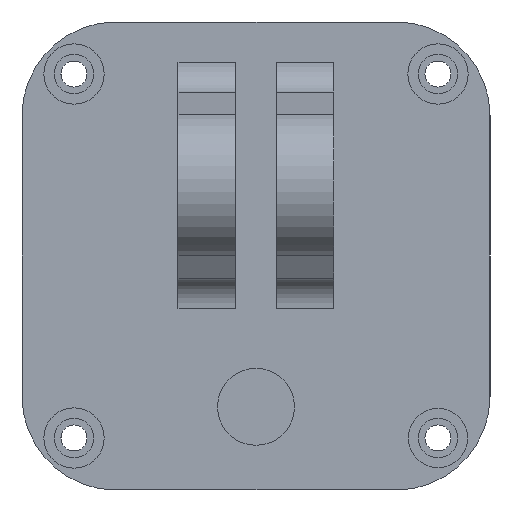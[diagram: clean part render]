
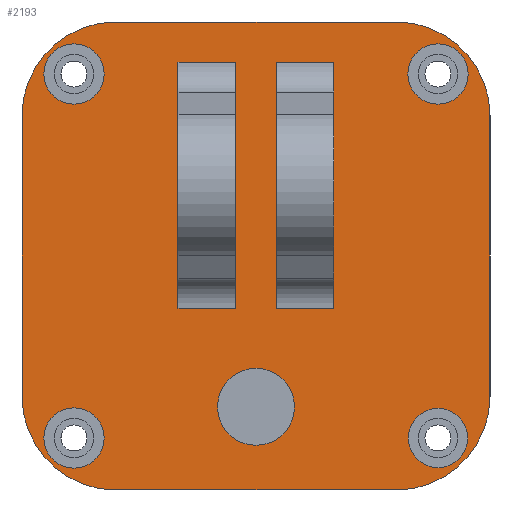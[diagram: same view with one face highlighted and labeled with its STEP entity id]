
A CAD part, left-side view. The second image highlights one B-rep face of the part: STEP entity #2193.
In plain terms, the highlighted planar face has unit normal (-1, 0, 0) as drawn and (1, 0, 0) by its records, which use the part's own axes.
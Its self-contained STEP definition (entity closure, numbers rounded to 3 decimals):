
#1404=CARTESIAN_POINT('',(6.,0.,-14.5));
#1405=DIRECTION('',(-1.,0.,0.));
#1406=DIRECTION('',(0.,-1.,0.));
#1407=AXIS2_PLACEMENT_3D('',#1404,#1405,#1406);
#1409=CARTESIAN_POINT('',(6.,0.,-14.5));
#1410=DIRECTION('',(-1.,0.,0.));
#1411=DIRECTION('',(0.,1.,0.));
#1412=AXIS2_PLACEMENT_3D('',#1409,#1410,#1411);
#1414=CARTESIAN_POINT('',(6.,13.5,-13.5));
#1415=DIRECTION('',(1.,0.,0.));
#1416=DIRECTION('',(0.,0.,-1.));
#1417=AXIS2_PLACEMENT_3D('',#1414,#1415,#1416);
#1419=DIRECTION('',(0.,1.,0.));
#1420=VECTOR('',#1419,27.);
#1421=CARTESIAN_POINT('',(6.,-13.5,-22.5));
#1422=LINE('',#1421,#1420);
#1423=CARTESIAN_POINT('',(6.,-13.5,-13.5));
#1424=DIRECTION('',(1.,0.,0.));
#1425=DIRECTION('',(0.,-1.,0.));
#1426=AXIS2_PLACEMENT_3D('',#1423,#1424,#1425);
#1428=DIRECTION('',(0.,0.,-1.));
#1429=VECTOR('',#1428,27.);
#1430=CARTESIAN_POINT('',(6.,-22.5,13.5));
#1431=LINE('',#1430,#1429);
#1432=CARTESIAN_POINT('',(6.,-13.5,13.5));
#1433=DIRECTION('',(1.,0.,0.));
#1434=DIRECTION('',(0.,0.,1.));
#1435=AXIS2_PLACEMENT_3D('',#1432,#1433,#1434);
#1437=DIRECTION('',(0.,-1.,0.));
#1438=VECTOR('',#1437,27.);
#1439=CARTESIAN_POINT('',(6.,13.5,22.5));
#1440=LINE('',#1439,#1438);
#1441=CARTESIAN_POINT('',(6.,13.5,13.5));
#1442=DIRECTION('',(1.,0.,0.));
#1443=DIRECTION('',(0.,1.,0.));
#1444=AXIS2_PLACEMENT_3D('',#1441,#1442,#1443);
#1446=DIRECTION('',(0.,0.,1.));
#1447=VECTOR('',#1446,27.);
#1448=CARTESIAN_POINT('',(6.,22.5,-13.5));
#1449=LINE('',#1448,#1447);
#1450=CARTESIAN_POINT('',(6.,17.5,-17.5));
#1451=DIRECTION('',(1.,0.,0.));
#1452=DIRECTION('',(0.,-1.,0.));
#1453=AXIS2_PLACEMENT_3D('',#1450,#1451,#1452);
#1455=CARTESIAN_POINT('',(6.,17.5,-17.5));
#1456=DIRECTION('',(1.,0.,0.));
#1457=DIRECTION('',(0.,1.,0.));
#1458=AXIS2_PLACEMENT_3D('',#1455,#1456,#1457);
#1460=CARTESIAN_POINT('',(6.,-17.5,-17.5));
#1461=DIRECTION('',(1.,0.,0.));
#1462=DIRECTION('',(0.,-1.,0.));
#1463=AXIS2_PLACEMENT_3D('',#1460,#1461,#1462);
#1465=CARTESIAN_POINT('',(6.,-17.5,-17.5));
#1466=DIRECTION('',(1.,0.,0.));
#1467=DIRECTION('',(0.,1.,0.));
#1468=AXIS2_PLACEMENT_3D('',#1465,#1466,#1467);
#1470=CARTESIAN_POINT('',(6.,-17.5,17.5));
#1471=DIRECTION('',(1.,0.,0.));
#1472=DIRECTION('',(0.,-1.,0.));
#1473=AXIS2_PLACEMENT_3D('',#1470,#1471,#1472);
#1475=CARTESIAN_POINT('',(6.,-17.5,17.5));
#1476=DIRECTION('',(1.,0.,0.));
#1477=DIRECTION('',(0.,1.,0.));
#1478=AXIS2_PLACEMENT_3D('',#1475,#1476,#1477);
#1480=CARTESIAN_POINT('',(6.,17.5,17.5));
#1481=DIRECTION('',(1.,0.,0.));
#1482=DIRECTION('',(0.,-1.,0.));
#1483=AXIS2_PLACEMENT_3D('',#1480,#1481,#1482);
#1485=CARTESIAN_POINT('',(6.,17.5,17.5));
#1486=DIRECTION('',(1.,0.,0.));
#1487=DIRECTION('',(0.,1.,0.));
#1488=AXIS2_PLACEMENT_3D('',#1485,#1486,#1487);
#1558=DIRECTION('',(0.,1.,0.));
#1559=VECTOR('',#1558,5.5);
#1560=CARTESIAN_POINT('',(6.,-7.5,-5.026));
#1561=LINE('',#1560,#1559);
#1586=DIRECTION('',(0.,0.,1.));
#1587=VECTOR('',#1586,23.653);
#1588=CARTESIAN_POINT('',(6.,-7.5,-5.026));
#1589=LINE('',#1588,#1587);
#1621=DIRECTION('',(0.,0.,-1.));
#1622=VECTOR('',#1621,23.653);
#1623=CARTESIAN_POINT('',(6.,-2.,18.626));
#1624=LINE('',#1623,#1622);
#1638=DIRECTION('',(0.,-1.,0.));
#1639=VECTOR('',#1638,5.5);
#1640=CARTESIAN_POINT('',(6.,-2.,18.626));
#1641=LINE('',#1640,#1639);
#1664=DIRECTION('',(0.,1.,0.));
#1665=VECTOR('',#1664,5.5);
#1666=CARTESIAN_POINT('',(6.,2.,-5.026));
#1667=LINE('',#1666,#1665);
#1692=DIRECTION('',(0.,0.,1.));
#1693=VECTOR('',#1692,23.653);
#1694=CARTESIAN_POINT('',(6.,2.,-5.026));
#1695=LINE('',#1694,#1693);
#1731=DIRECTION('',(0.,0.,-1.));
#1732=VECTOR('',#1731,23.653);
#1733=CARTESIAN_POINT('',(6.,7.5,18.626));
#1734=LINE('',#1733,#1732);
#1744=DIRECTION('',(0.,-1.,0.));
#1745=VECTOR('',#1744,5.5);
#1746=CARTESIAN_POINT('',(6.,7.5,18.626));
#1747=LINE('',#1746,#1745);
#1822=CARTESIAN_POINT('',(6.,13.5,-22.5));
#1823=CARTESIAN_POINT('',(6.,22.5,-13.5));
#1824=VERTEX_POINT('',#1822);
#1825=VERTEX_POINT('',#1823);
#1826=CARTESIAN_POINT('',(6.,22.5,13.5));
#1827=VERTEX_POINT('',#1826);
#1828=CARTESIAN_POINT('',(6.,13.5,22.5));
#1829=VERTEX_POINT('',#1828);
#1830=CARTESIAN_POINT('',(6.,-13.5,22.5));
#1831=VERTEX_POINT('',#1830);
#1832=CARTESIAN_POINT('',(6.,-22.5,13.5));
#1833=VERTEX_POINT('',#1832);
#1834=CARTESIAN_POINT('',(6.,-22.5,-13.5));
#1835=VERTEX_POINT('',#1834);
#1836=CARTESIAN_POINT('',(6.,-13.5,-22.5));
#1837=VERTEX_POINT('',#1836);
#1850=CARTESIAN_POINT('',(6.,-3.7,-14.5));
#1851=CARTESIAN_POINT('',(6.,3.7,-14.5));
#1852=VERTEX_POINT('',#1850);
#1853=VERTEX_POINT('',#1851);
#1870=CARTESIAN_POINT('',(6.,14.65,-17.5));
#1871=CARTESIAN_POINT('',(6.,20.35,-17.5));
#1872=VERTEX_POINT('',#1870);
#1873=VERTEX_POINT('',#1871);
#1874=CARTESIAN_POINT('',(6.,-20.4,-17.5));
#1875=CARTESIAN_POINT('',(6.,-14.6,-17.5));
#1876=VERTEX_POINT('',#1874);
#1877=VERTEX_POINT('',#1875);
#1878=CARTESIAN_POINT('',(6.,-20.4,17.5));
#1879=CARTESIAN_POINT('',(6.,-14.6,17.5));
#1880=VERTEX_POINT('',#1878);
#1881=VERTEX_POINT('',#1879);
#1882=CARTESIAN_POINT('',(6.,14.6,17.5));
#1883=CARTESIAN_POINT('',(6.,20.4,17.5));
#1884=VERTEX_POINT('',#1882);
#1885=VERTEX_POINT('',#1883);
#1934=CARTESIAN_POINT('',(6.,-7.5,-5.026));
#1935=CARTESIAN_POINT('',(6.,-2.,-5.026));
#1936=VERTEX_POINT('',#1934);
#1937=VERTEX_POINT('',#1935);
#1942=CARTESIAN_POINT('',(6.,2.,-5.026));
#1943=CARTESIAN_POINT('',(6.,7.5,-5.026));
#1944=VERTEX_POINT('',#1942);
#1945=VERTEX_POINT('',#1943);
#1950=CARTESIAN_POINT('',(6.,-2.,18.626));
#1951=CARTESIAN_POINT('',(6.,-7.5,18.626));
#1952=VERTEX_POINT('',#1950);
#1953=VERTEX_POINT('',#1951);
#1958=CARTESIAN_POINT('',(6.,7.5,18.626));
#1959=CARTESIAN_POINT('',(6.,2.,18.626));
#1960=VERTEX_POINT('',#1958);
#1961=VERTEX_POINT('',#1959);
#2121=CARTESIAN_POINT('',(6.,0.,0.));
#2122=DIRECTION('',(1.,0.,0.));
#2123=DIRECTION('',(0.,-1.,0.));
#2124=AXIS2_PLACEMENT_3D('',#2121,#2122,#2123);
#2125=PLANE('',#2124);
#2127=ORIENTED_EDGE('',*,*,#2126,.F.);
#2129=ORIENTED_EDGE('',*,*,#2128,.F.);
#2131=ORIENTED_EDGE('',*,*,#2130,.F.);
#2133=ORIENTED_EDGE('',*,*,#2132,.F.);
#2135=ORIENTED_EDGE('',*,*,#2134,.F.);
#2137=ORIENTED_EDGE('',*,*,#2136,.F.);
#2139=ORIENTED_EDGE('',*,*,#2138,.F.);
#2141=ORIENTED_EDGE('',*,*,#2140,.F.);
#2142=EDGE_LOOP('',(#2127,#2129,#2131,#2133,#2135,#2137,#2139,#2141));
#2143=FACE_OUTER_BOUND('',#2142,.F.);
#2145=ORIENTED_EDGE('',*,*,#2144,.F.);
#2147=ORIENTED_EDGE('',*,*,#2146,.F.);
#2148=EDGE_LOOP('',(#2145,#2147));
#2149=FACE_BOUND('',#2148,.F.);
#2150=ORIENTED_EDGE('',*,*,#2111,.T.);
#2152=ORIENTED_EDGE('',*,*,#2151,.T.);
#2153=EDGE_LOOP('',(#2150,#2152));
#2154=FACE_BOUND('',#2153,.F.);
#2156=ORIENTED_EDGE('',*,*,#2155,.T.);
#2158=ORIENTED_EDGE('',*,*,#2157,.T.);
#2159=EDGE_LOOP('',(#2156,#2158));
#2160=FACE_BOUND('',#2159,.F.);
#2162=ORIENTED_EDGE('',*,*,#2161,.T.);
#2164=ORIENTED_EDGE('',*,*,#2163,.T.);
#2165=EDGE_LOOP('',(#2162,#2164));
#2166=FACE_BOUND('',#2165,.F.);
#2168=ORIENTED_EDGE('',*,*,#2167,.T.);
#2170=ORIENTED_EDGE('',*,*,#2169,.T.);
#2171=EDGE_LOOP('',(#2168,#2170));
#2172=FACE_BOUND('',#2171,.F.);
#2174=ORIENTED_EDGE('',*,*,#2173,.T.);
#2176=ORIENTED_EDGE('',*,*,#2175,.F.);
#2178=ORIENTED_EDGE('',*,*,#2177,.T.);
#2180=ORIENTED_EDGE('',*,*,#2179,.F.);
#2181=EDGE_LOOP('',(#2174,#2176,#2178,#2180));
#2182=FACE_BOUND('',#2181,.F.);
#2184=ORIENTED_EDGE('',*,*,#2183,.T.);
#2186=ORIENTED_EDGE('',*,*,#2185,.F.);
#2188=ORIENTED_EDGE('',*,*,#2187,.T.);
#2190=ORIENTED_EDGE('',*,*,#2189,.F.);
#2191=EDGE_LOOP('',(#2184,#2186,#2188,#2190));
#2192=FACE_BOUND('',#2191,.F.);
#2193=ADVANCED_FACE('',(#2143,#2149,#2154,#2160,#2166,#2172,#2182,#2192),#2125,
.T.);
#1408=CIRCLE('',#1407,3.7);
#1413=CIRCLE('',#1412,3.7);
#1418=CIRCLE('',#1417,9.);
#1427=CIRCLE('',#1426,9.);
#1436=CIRCLE('',#1435,9.);
#1445=CIRCLE('',#1444,9.);
#1454=CIRCLE('',#1453,2.85);
#1459=CIRCLE('',#1458,2.85);
#1464=CIRCLE('',#1463,2.9);
#1469=CIRCLE('',#1468,2.9);
#1474=CIRCLE('',#1473,2.9);
#1479=CIRCLE('',#1478,2.9);
#1484=CIRCLE('',#1483,2.9);
#1489=CIRCLE('',#1488,2.9);
#2111=EDGE_CURVE('',#1872,#1873,#1454,.T.);
#2126=EDGE_CURVE('',#1824,#1825,#1418,.T.);
#2128=EDGE_CURVE('',#1837,#1824,#1422,.T.);
#2130=EDGE_CURVE('',#1835,#1837,#1427,.T.);
#2132=EDGE_CURVE('',#1833,#1835,#1431,.T.);
#2134=EDGE_CURVE('',#1831,#1833,#1436,.T.);
#2136=EDGE_CURVE('',#1829,#1831,#1440,.T.);
#2138=EDGE_CURVE('',#1827,#1829,#1445,.T.);
#2140=EDGE_CURVE('',#1825,#1827,#1449,.T.);
#2144=EDGE_CURVE('',#1852,#1853,#1408,.T.);
#2146=EDGE_CURVE('',#1853,#1852,#1413,.T.);
#2151=EDGE_CURVE('',#1873,#1872,#1459,.T.);
#2155=EDGE_CURVE('',#1876,#1877,#1464,.T.);
#2157=EDGE_CURVE('',#1877,#1876,#1469,.T.);
#2161=EDGE_CURVE('',#1880,#1881,#1474,.T.);
#2163=EDGE_CURVE('',#1881,#1880,#1479,.T.);
#2167=EDGE_CURVE('',#1884,#1885,#1484,.T.);
#2169=EDGE_CURVE('',#1885,#1884,#1489,.T.);
#2173=EDGE_CURVE('',#1936,#1937,#1561,.T.);
#2175=EDGE_CURVE('',#1952,#1937,#1624,.T.);
#2177=EDGE_CURVE('',#1952,#1953,#1641,.T.);
#2179=EDGE_CURVE('',#1936,#1953,#1589,.T.);
#2183=EDGE_CURVE('',#1944,#1945,#1667,.T.);
#2185=EDGE_CURVE('',#1960,#1945,#1734,.T.);
#2187=EDGE_CURVE('',#1960,#1961,#1747,.T.);
#2189=EDGE_CURVE('',#1944,#1961,#1695,.T.);
